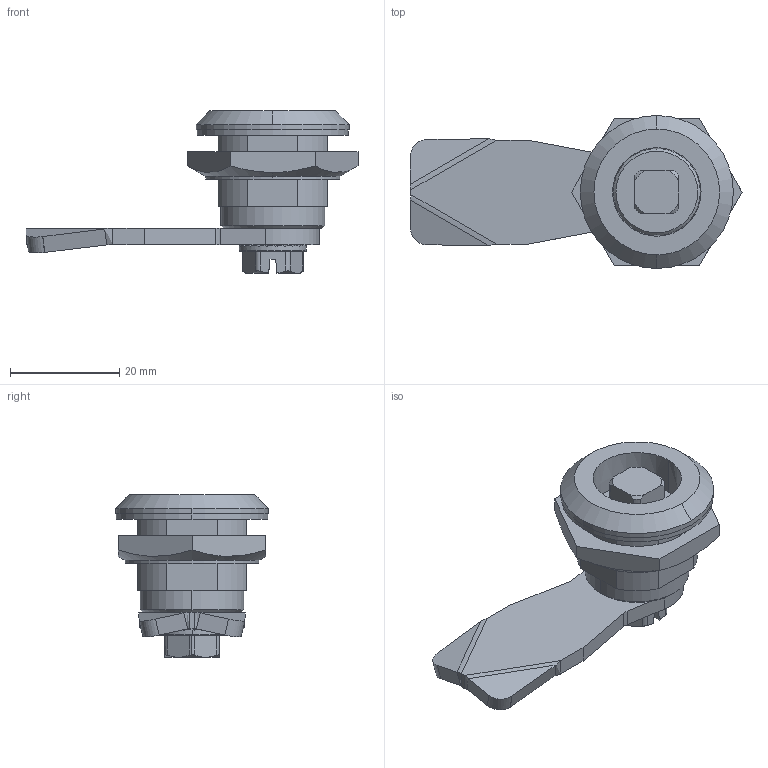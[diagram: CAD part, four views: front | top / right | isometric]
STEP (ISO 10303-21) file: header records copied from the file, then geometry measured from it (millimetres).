
FILE_DESCRIPTION (( 'STEP AP214' ), '1' );
FILE_NAME ('M22GP4.STEP', '2016-08-22T06:09:50', ( 'Krzysiek' ), ( '' ), 'SwSTEP 2.0', 'SolidWorks 2015', '' );
FILE_SCHEMA (( 'AUTOMOTIVE_DESIGN' ));
Length unit declared in the file: millimetre
Products named in the file (9): 2.NKR_M22 - A1; DIN 6921_M6x10; 1C.J-1XX.GH.L_#3, 1.00.18.45; 2.IP65.002_A; DIN 3771_12x2; 2.M22.GP4.000.03_A; 2.S.M22GP4.001_KW8; 2.K.M22GP4.002_A; M22GP4
Assembly tree (8 placements, depth 2):
  M22GP4
    2.K.M22GP4.002_A
    2.S.M22GP4.001_KW8
    2.M22.GP4.000.03_A
    DIN 3771_12x2
    2.IP65.002_A
    1C.J-1XX.GH.L_#3, 1.00.18.45
    DIN 6921_M6x10
    2.NKR_M22 - A1
Bounding box: 60.75 x 28 x 29.7 mm (x, y, z)
Volume: 11249.3 mm3; surface area: 10229.6 mm2
Topology: 8 solids, 8 shells, 356 faces, 905 edges, 568 vertices
Faces by surface type: plane 184, cylinder 85, bspline 45, cone 42
Entity records: 12056 total; most frequent: CARTESIAN_POINT 3830, ORIENTED_EDGE 1806, DIRECTION 1462, EDGE_CURVE 903, VERTEX_POINT 568, AXIS2_PLACEMENT_3D 510, VECTOR 442, LINE 442
